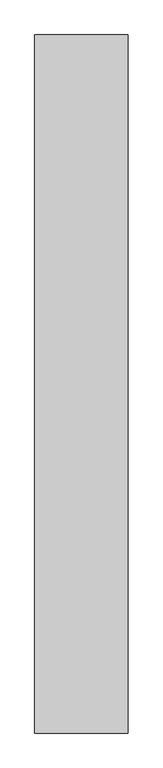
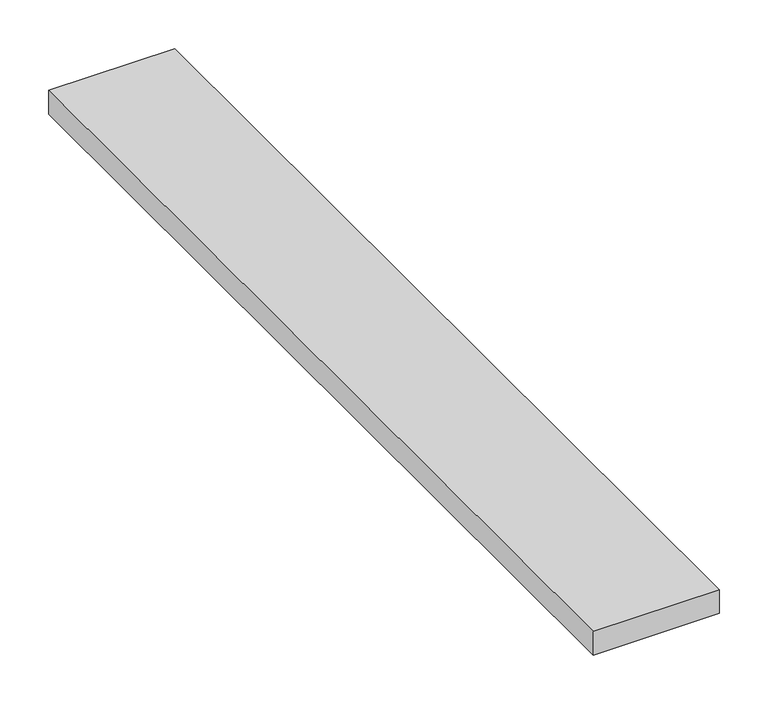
"""IFC4 building model written with IfcOpenShell, lengths in millimetres: proxy geometry, GM_Отделка : Подступенок."""

from ifc_helpers import new_model, si_unit, origin, origin_with_axes, place, context, project, spatial, polyline, outline, extrude, source, transform, mapped, element, save


def generic_models_eb6f8b1a(model_context):
    return source(origin(), model_context, "Body", "SweptSolid", [
        extrude(outline(polyline([(-200.0, -972.5), (-350.0, -972.5), (-350.0, 147.5), (-200.0, 147.5), (-200.0, -972.5)])), origin_with_axes(), (0.0, 0.0, 1.0), 30.0),
    ])


if __name__ == "__main__":
    model = new_model("IFC4")
    model_context = context("Model", 3, world=origin())
    ifc_project = project(units=[si_unit("LENGTHUNIT", "METRE", prefix="MILLI")], contexts=[model_context])
    site = spatial("IfcSite", under=ifc_project)
    building = spatial("IfcBuilding", under=site)
    placement = place(None, origin())
    generic_models_shape = generic_models_eb6f8b1a(model_context)
    element("IfcBuildingElementProxy", 1, Name="GM_Отделка : Подступенок", ObjectType="GM_Отделка : Подступенок", at=placement, inside=building, context=model_context, shape_type="MappedRepresentation", body=[
        mapped(generic_models_shape, transform((0.0, 0.0, 0.0), x_axis=(1.0, 0.0, 0.0), y_axis=(0.0, 1.0, 0.0), z_axis=(0.0, 0.0, 1.0))),
    ])
    save(model, "model.ifc")
